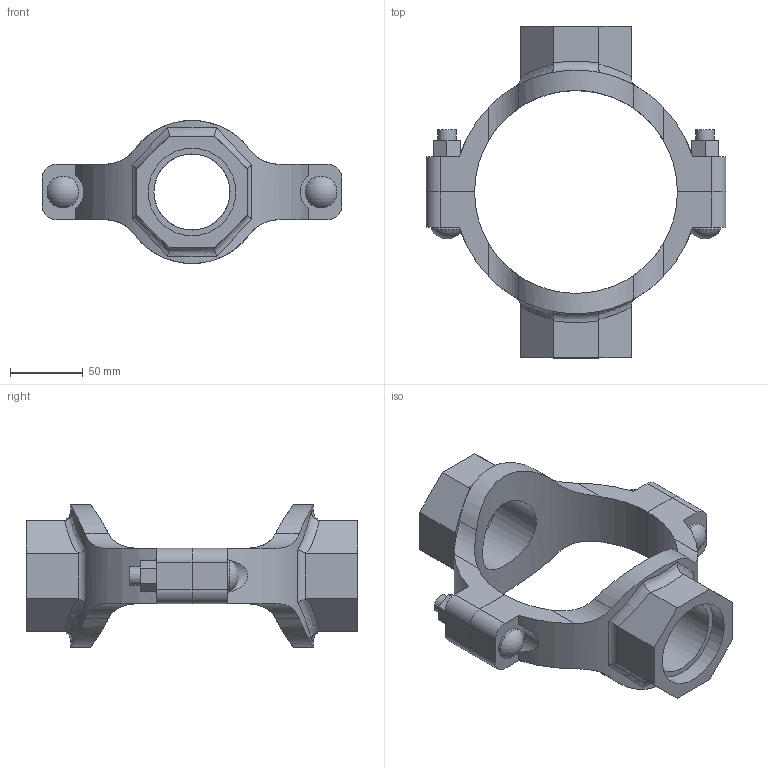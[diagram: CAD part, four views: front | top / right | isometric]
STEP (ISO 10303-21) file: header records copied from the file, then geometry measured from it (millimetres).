
FILE_DESCRIPTION(/* description */ ('VIC MECH-T BRANCH OUTLET CROSS STYLE 920N (THD)','CAx-IF Rec.Pracs.---Representation and Presentation of Product Manufacturing Information (PMI)---4.0---2014-10-13'),/* implementation_level */ '2;1');
FILE_NAME(/* name */ 'C:\Users\Vjadhav\AppData\Roaming\Autodesk\ApplicationPlugins\Back Up\Victaulic_IPS_Mechanical-Cross Outlet_Style 920N (FPT)\Victaulic_IPS_Mechanical-Cross Outlet_05.0 (139.7)x02.0x02.0 (125x50x50).stp',/* time_stamp */ '2020-08-06T18:58:56+05:00',/* author */ ('Vjadhav'),/* organization */ ('Victaulic'),/* preprocessor_version */ 'ST-DEVELOPER v17.2',/* originating_system */ 'Autodesk Inventor 2019',/* authorisation */ '');
FILE_SCHEMA (('AP242_MANAGED_MODEL_BASED_3D_ENGINEERING_MIM_LF { 1 0 10303 442 1 1 4 }'));
Length unit declared in the file: inch
Products named in the file (3): 920NT-05.0 (139.7)x02.0x02.0; 920NT-05.0 (139.7)x02.0; 920NT-05.0 (139.7)x02.0_1
Assembly tree (2 placements, depth 2):
  920NT-05.0 (139.7)x02.0x02.0
    920NT-05.0 (139.7)x02.0
    920NT-05.0 (139.7)x02.0_1
Bounding box: 206.5 x 228.6 x 98.54 mm (x, y, z)
Volume: 555439.9 mm3; surface area: 116521.3 mm2
Topology: 2 solids, 2 shells, 132 faces, 350 edges, 236 vertices
Faces by surface type: plane 68, cylinder 50, bspline 8, torus 4, sphere 2
Full cylindrical faces by diameter (mm): 12.7 x4, 21.982 x2, 52.387 x2, 60.325 x2
Entity records: 5350 total; most frequent: CARTESIAN_POINT 1837, ORIENTED_EDGE 700, DIRECTION 648, EDGE_CURVE 350, VERTEX_POINT 236, AXIS2_PLACEMENT_3D 231, LINE 186, VECTOR 186
